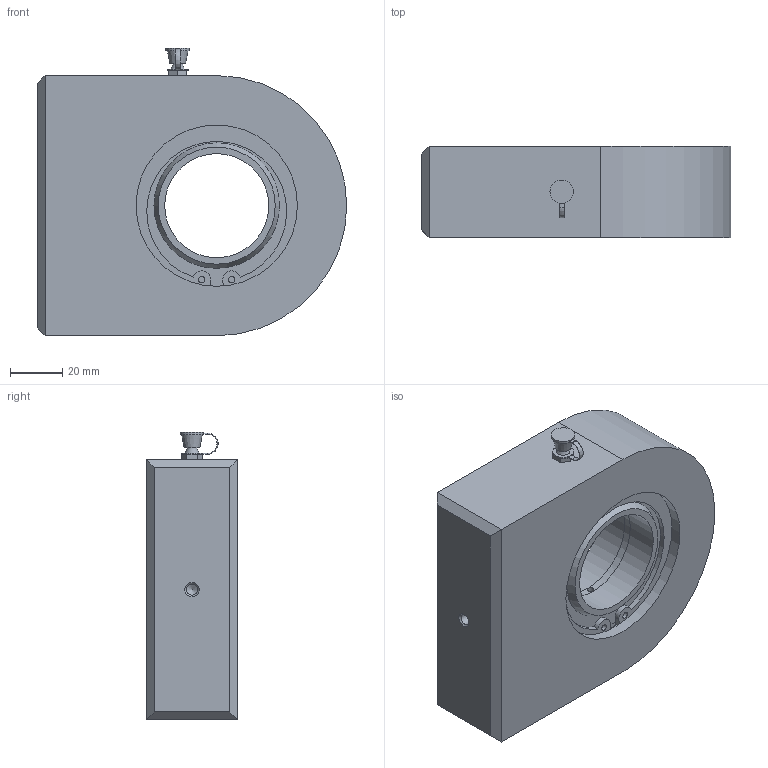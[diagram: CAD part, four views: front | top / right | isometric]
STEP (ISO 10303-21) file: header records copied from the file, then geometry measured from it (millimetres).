
FILE_DESCRIPTION( ( 'Unknown' ), '1' );
FILE_NAME( 'E:/LIBRERIA_3d/SNODI INDUSTRIALI/CSTS040N00.stp', 'Unknown', ( 'Unknown' ), ( 'Unknown' ), 'PSStep 17.0.49', 'Unknown', ' ' );
FILE_SCHEMA( ( 'AUTOMOTIVE_DESIGN { 1 0 10303 214 1 1 1 1 }' ) );
Length unit declared in the file: millimetre
Products named in the file (8): CSTSF040N0; AN00006001; CSTS040N_CORPO-oa0; CSCSEI0062; CSCSEI0062-oa1; Assem1; CGE0400000; APGR013000
Assembly tree (7 placements, depth 3):
  Assem1
    CGE0400000
    APGR013000
    CSTSF040N0
      AN00006001
      CSTS040N_CORPO-oa0
      CSCSEI0062
      CSCSEI0062-oa1
Bounding box: 119 x 35 x 110.5 mm (x, y, z)
Volume: 312452.6 mm3; surface area: 57456.6 mm2
Topology: 6 solids, 6 shells, 88 faces, 193 edges, 131 vertices
Faces by surface type: plane 44, cylinder 31, bspline 5, sphere 3, cone 3, torus 2
Full cylindrical faces by diameter (mm): 2.5 x6, 4.25 x1, 5 x3, 6 x1, 8 x1, 9 x1, 40 x2, 62 x5, 65 x2
Entity records: 3793 total; most frequent: CARTESIAN_POINT 1185, DIRECTION 390, ORIENTED_EDGE 278, AXIS2_PLACEMENT_3D 166, EDGE_LOOP 156, EDGE_CURVE 139, FACE_OUTER_BOUND 117, VERTEX_POINT 113
